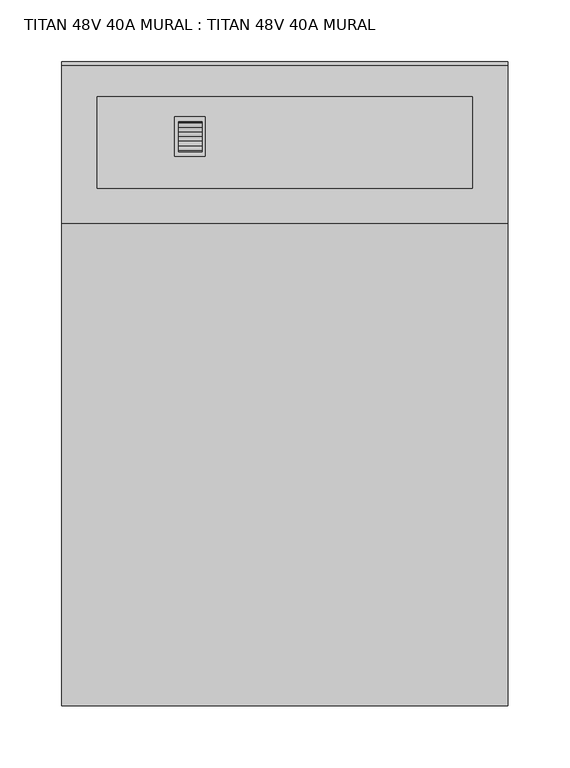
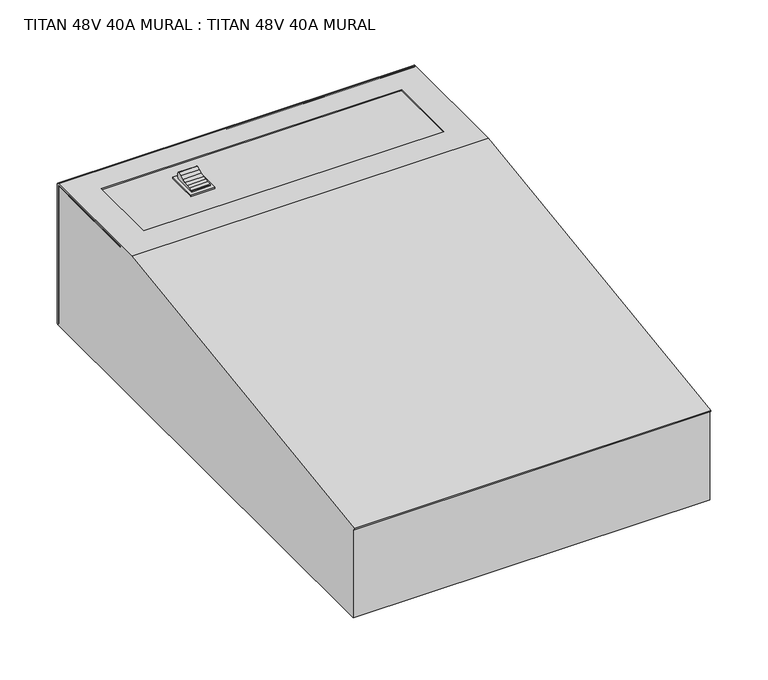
"""IFC4 building model written with IfcOpenShell, lengths in millimetres: proxy geometry, TITAN 48V 40A MURAL : TITAN 48V 40A MURAL."""

from ifc_helpers import new_model, si_unit, point, frame, frame_2d, origin, place, context, project, spatial, polyline, circle_curve, trimmed, segment, composite_curve, outline, extrude, source, transform, mapped, element, save
from ifc_brep_helpers import plane_surface, cylinder_surface, revolved_surface, advanced_brep


def titan_48v_40a_mural_titan_48v_40a_mural_561d1a2a(model_context):
    return source(origin(), model_context, "Body", "SolidModel", [
        extrude(outline(composite_curve([segment(polyline([(0.0, 0.0), (0.0, -17.9999999), (0.0, -19.5010361)]), True, "CONTINUOUS"), segment(trimmed(circle_curve(frame_2d((0.4270032, -22.6356875)), 3.163601), [point((0.0, -19.5010361))], [point((-2.2344057, -20.9253444))], True, "CARTESIAN"), True, "CONTINUOUS"), segment(trimmed(circle_curve(frame_2d((-4.6067196, -19.400787)), 2.8199554), [point((-2.2344057, -20.9253444))], [point((-4.0, -22.1547005))], False, "CARTESIAN"), True, "CONTINUOUS"), segment(polyline([(-4.0, -22.1547005), (-4.0, -17.1547005), (-2.0, -15.9999999), (-2.0, 0.0), (0.0, 0.0)]), True, "CONTINUOUS")], self_intersect=False)), frame((93.4737206, 3.2798499, 0.0), z_axis=(-0.5000000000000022, 0.8660254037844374, 0.0), x_axis=(0.0, 0.0, -1.0)), (0.0, 0.0, 1.0), 124.0),
        extrude(outline(composite_curve([segment(polyline([(17.9999999, 0.0), (17.9999999, -2.0), (2.0, -2.0), (0.8452994, -4.0), (-4.1547005, -4.0)]), True, "CONTINUOUS"), segment(trimmed(circle_curve(frame_2d((-1.4007871, -4.6067196)), 2.8199554), [point((-4.1547005, -4.0))], [point((-2.9253444, -2.2344057))], False, "CARTESIAN"), True, "CONTINUOUS"), segment(trimmed(circle_curve(frame_2d((-4.6356876, 0.4270032)), 3.163601), [point((-2.9253444, -2.2344057))], [point((-1.5010361, 0.0))], True, "CARTESIAN"), True, "CONTINUOUS"), segment(polyline([(-1.5010361, 0.0), (0.0, 0.0), (17.9999999, 0.0)]), True, "CONTINUOUS")], self_intersect=False)), frame((-109.0621778, 12.2798499, 0.0), z_axis=(0.5000000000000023, 0.8660254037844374, 0.0), x_axis=(0.8660254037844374, -0.5000000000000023, 0.0)), (0.0, 0.0, 1.0), 124.0),
        extrude(outline(polyline([(180.0, 240.363), (180.0, 150.363), (-180.0, 150.363), (-180.0, 240.363), (180.0, 240.363)])), frame((0.0, 0.0, 153.0), z_axis=(0.0, 0.0, 1.0), x_axis=(1.0, 0.0, 0.0)), (0.0, 0.0, 1.0), 1.0),
        extrude(outline(composite_curve([segment(polyline([(207.6415675, 161.3745771), (210.8384682, 163.0034793)]), True, "CONTINUOUS"), segment(trimmed(circle_curve(frame_2d((211.0816932, 162.5261234)), 0.5357491), [point((210.8384682, 163.0034793))], [point((211.5728075, 162.7402117))], False, "CARTESIAN"), True, "CONTINUOUS"), segment(trimmed(circle_curve(frame_2d((202.9092435, 158.9635603)), 9.450949), [point((211.5728075, 162.7402117))], [point((211.8835261, 156.0))], False, "CARTESIAN"), True, "CONTINUOUS"), segment(polyline([(211.8835261, 156.0), (188.0844381, 156.0), (188.0844381, 156.8713095)]), True, "CONTINUOUS"), segment(trimmed(circle_curve(frame_2d((188.5944381, 156.8713095)), 0.51), [point((188.0844381, 156.8713095))], [point((188.5816091, 157.3811481))], False, "CARTESIAN"), True, "CONTINUOUS"), segment(polyline([(188.5816091, 157.3811481), (192.536506, 157.4806644), (196.3330881, 157.9106033), (200.1037434, 158.6975121), (203.8517627, 159.8433965), (207.6415675, 161.3745771)]), True, "CONTINUOUS")], self_intersect=False)), frame((-85.9, 0.0, 0.0), z_axis=(1.0, 0.0, 0.0), x_axis=(0.0, 1.0, 0.0)), (0.0, 0.0, 1.0), 18.85),
        extrude(outline(polyline([(-88.95, 216.288), (-64.55, 216.288), (-64.55, 184.438), (-88.95, 184.438), (-88.95, 216.288)])), frame((0.0, 0.0, 154.0), z_axis=(0.0, 0.0, 1.0), x_axis=(1.0, 0.0, 0.0)), (0.0, 0.0, 1.0), 2.0),
        advanced_brep(
        [(180.0, -258.9002403, 99.2778779), (180.0, 130.4678902, 154.0), (180.0, 257.785744, 154.0), (180.0, 258.863, 152.922744), (180.0, 258.863, 6.5), (180.0, 257.863, 5.5), (180.0, 257.073, 5.5), (180.0, 257.073, 153.0), (180.0, 128.338, 153.0), (180.0, -257.073, 98.8340164), (180.0, -257.073, 4.0), (180.0, 257.940261, 4.0), (180.0, 260.363, 6.422739), (180.0, 260.363, 153.0369304), (180.0, 257.8999304, 155.5), (180.0, 130.363, 155.5), (180.0, -259.109, 100.76328), (-180.0, -258.9002403, 99.2778779), (-180.0, -259.109, 100.76328), (-180.0, 130.363, 155.5), (-180.0, 257.8999304, 155.5), (-180.0, 260.363, 153.0369304), (-180.0, 260.363, 6.422739), (-180.0, 257.940261, 4.0), (-180.0, -257.073, 4.0), (-180.0, -257.073, 98.8340164), (-180.0, 128.338, 153.0), (-180.0, 257.073, 153.0), (-180.0, 257.073, 5.5), (-180.0, 257.863, 5.5), (-180.0, 258.863, 6.5), (-180.0, 258.863, 152.922744), (-180.0, 257.785744, 154.0), (-180.0, 130.4678902, 154.0), (-151.5, 158.363, 154.0), (151.5, 158.363, 154.0), (151.5, 232.363, 154.0), (-151.5, 232.363, 154.0), (151.5, 158.363, 153.0), (-151.5, 158.363, 153.0), (-151.5, 232.363, 153.0), (151.5, 232.363, 153.0), (151.5, 158.363, 155.5), (-151.5, 158.363, 155.5), (-151.5, 232.363, 155.5), (151.5, 232.363, 155.5), (151.5, 158.363, 152.5), (151.5, 232.363, 152.5), (-151.5, 232.363, 152.5), (-151.5, 158.363, 152.5)],
        [
            (0, 1),
            (1, 2),
            (2, 3, circle_curve(frame((180.0, 257.785744, 152.922744), z_axis=(-1.0, 0.0, 0.0), x_axis=(0.0, -1.0, 0.0)), 1.077256)),
            (3, 4),
            (4, 5, circle_curve(frame((180.0, 257.863, 6.5), z_axis=(-1.0, 0.0, 0.0), x_axis=(0.0, -1.0, 0.0)), 1.0)),
            (5, 6),
            (6, 7),
            (7, 8),
            (8, 9),
            (9, 10),
            (10, 11),
            (11, 12, circle_curve(frame((180.0, 257.940261, 6.422739), z_axis=(1.0, 0.0, 0.0), x_axis=(0.0, -1.0, 0.0)), 2.422739)),
            (12, 13),
            (13, 14, circle_curve(frame((180.0, 257.8999304, 153.0369304), z_axis=(1.0, 0.0, 0.0), x_axis=(0.0, -1.0, 0.0)), 2.4630696)),
            (14, 15),
            (15, 16),
            (16, 0),
            (17, 18),
            (18, 19),
            (19, 20),
            (20, 21, circle_curve(frame((-180.0, 257.8999304, 153.0369304), z_axis=(-1.0, 0.0, 0.0), x_axis=(0.0, -1.0, 0.0)), 2.4630696)),
            (21, 22),
            (22, 23, circle_curve(frame((-180.0, 257.940261, 6.422739), z_axis=(-1.0, 0.0, 0.0), x_axis=(0.0, -1.0, 0.0)), 2.422739)),
            (23, 24),
            (24, 25),
            (25, 26),
            (26, 27),
            (27, 28),
            (28, 29),
            (29, 30, circle_curve(frame((-180.0, 257.863, 6.5), z_axis=(1.0, 0.0, 0.0), x_axis=(0.0, -1.0, 0.0)), 1.0)),
            (30, 31),
            (31, 32, circle_curve(frame((-180.0, 257.785744, 152.922744), z_axis=(1.0, 0.0, 0.0), x_axis=(0.0, -1.0, 0.0)), 1.077256)),
            (32, 33),
            (33, 17),
            (0, 17),
            (33, 1),
            (32, 2),
            (34, 35),
            (35, 36),
            (36, 37),
            (37, 34),
            (31, 3),
            (30, 4),
            (29, 5),
            (28, 6),
            (27, 7),
            (26, 8),
            (38, 39),
            (39, 40),
            (40, 41),
            (41, 38),
            (25, 9),
            (24, 10),
            (23, 11),
            (22, 12),
            (21, 13),
            (20, 14),
            (19, 15),
            (42, 43),
            (43, 44),
            (44, 45),
            (45, 42),
            (18, 16),
            (46, 47),
            (47, 48),
            (48, 49),
            (49, 46),
            (49, 39),
            (38, 46),
            (42, 35),
            (34, 43),
            (48, 40),
            (37, 44),
            (47, 41),
            (36, 45),
        ],
        [
            plane_surface(frame((180.0, 130.3986439, 153.9902681), z_axis=(1.0000000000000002, 0.0, 0.0), x_axis=(0.0, 0.9902680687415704, 0.13917310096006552))),
            plane_surface(frame((-180.0, 130.3986439, 153.9902681), z_axis=(-1.0000000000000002, 0.0, 0.0), x_axis=(0.0, -0.9902680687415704, -0.13917310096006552))),
            plane_surface(frame((180.0, -258.9002403, 99.2778779), z_axis=(0.0, 0.13917310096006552, -0.9902680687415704), x_axis=(-1.0, 0.0, 0.0))),
            plane_surface(frame((180.0, 130.4678902, 154.0), z_axis=(0.0, 0.0, -1.0), x_axis=(-1.0, 0.0, 0.0))),
            revolved_surface(polyline([(-180.0, 256.70848800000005, 152.922744), (180.0, 256.70848800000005, 152.922744)]), (-180.0, 257.785744, 152.922744), (-1.0, 0.0, 0.0)),
            plane_surface(frame((180.0, 258.863, 152.922744), z_axis=(0.0, -1.0, 0.0), x_axis=(-1.0, 0.0, 0.0))),
            revolved_surface(polyline([(-180.0, 256.863, 6.5), (180.0, 256.863, 6.5)]), (-180.0, 257.863, 6.5), (-1.0, 0.0, 0.0)),
            plane_surface(frame((180.0, 257.863, 5.5), z_axis=(0.0, 0.0, 1.0), x_axis=(-1.0, 0.0, 0.0))),
            plane_surface(frame((180.0, 257.073, 5.5), z_axis=(0.0, 1.0, 0.0), x_axis=(-1.0, 0.0, 0.0))),
            plane_surface(frame((180.0, 257.073, 153.0), z_axis=(0.0, 0.0, 1.0), x_axis=(-1.0, 0.0, 0.0))),
            plane_surface(frame((180.0, 128.338, 153.0), z_axis=(0.0, -0.1391731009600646, 0.9902680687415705), x_axis=(-1.0, 0.0, 0.0))),
            plane_surface(frame((180.0, -257.073, 98.8340164), z_axis=(0.0, -1.0, 0.0), x_axis=(-1.0, 0.0, 0.0))),
            plane_surface(frame((180.0, -257.073, 4.0), z_axis=(0.0, 0.0, -1.0), x_axis=(-1.0, 0.0, 0.0))),
            cylinder_surface(frame((-180.0, 257.940261, 6.422739), z_axis=(1.0, 0.0, 0.0), x_axis=(0.0, -1.0, 0.0)), 2.422739),
            plane_surface(frame((180.0, 260.363, 6.422739), z_axis=(0.0, 1.0, 0.0), x_axis=(-1.0, 0.0, 0.0))),
            cylinder_surface(frame((-180.0, 257.8999304, 153.0369304), z_axis=(1.0, 0.0, 0.0), x_axis=(0.0, -1.0, 0.0)), 2.4630696),
            plane_surface(frame((180.0, 257.8999304, 155.5), z_axis=(0.0, 0.0, 1.0), x_axis=(-1.0, 0.0, 0.0))),
            plane_surface(frame((180.0, 130.363, 155.5), z_axis=(0.0, -0.1391731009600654, 0.9902680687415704), x_axis=(-1.0, 0.0, 0.0))),
            plane_surface(frame((180.0, -259.109, 100.76328), z_axis=(0.0, -0.9902680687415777, -0.13917310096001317), x_axis=(-1.0, 0.0, 0.0))),
            plane_surface(frame((151.5, 158.363, 152.5), z_axis=(0.0, 0.0, 1.0), x_axis=(-1.0, 0.0, 0.0))),
            plane_surface(frame((151.5, 158.363, 152.5), z_axis=(0.0, 1.0, 0.0), x_axis=(0.0, 0.0, 1.0))),
            plane_surface(frame((-151.5, 158.363, 152.5), z_axis=(1.0, 0.0, 0.0), x_axis=(0.0, 0.0, 1.0))),
            plane_surface(frame((-151.5, 232.363, 152.5), z_axis=(0.0, -1.0, 0.0), x_axis=(0.0, 0.0, 1.0))),
            plane_surface(frame((151.5, 232.363, 152.5), z_axis=(-1.0, 0.0, 0.0), x_axis=(0.0, 0.0, 1.0))),
        ],
        [
            (0, [[1, 2, 3, 4, 5, 6, 7, 8, 9, 10, 11, 12, 13, 14, 15, 16, 17]]),
            (1, [[18, 19, 20, 21, 22, 23, 24, 25, 26, 27, 28, 29, 30, 31, 32, 33, 34]]),
            (2, [[-1, 35, -34, 36]]),
            (3, [[-2, -36, -33, 37], [38, 39, 40, 41]]),
            (4, [[-3, -37, -32, 42]]),
            (5, [[-4, -42, -31, 43]]),
            (6, [[-5, -43, -30, 44]]),
            (7, [[-6, -44, -29, 45]]),
            (8, [[-7, -45, -28, 46]]),
            (9, [[-8, -46, -27, 47], [48, 49, 50, 51]]),
            (10, [[-9, -47, -26, 52]]),
            (11, [[-10, -52, -25, 53]]),
            (12, [[-11, -53, -24, 54]]),
            (13, [[-12, -54, -23, 55]]),
            (14, [[-13, -55, -22, 56]]),
            (15, [[-14, -56, -21, 57]]),
            (16, [[-15, -57, -20, 58], [59, 60, 61, 62]]),
            (17, [[-16, -58, -19, 63]]),
            (18, [[-17, -63, -18, -35]]),
            (19, [[64, 65, 66, 67]]),
            (20, [[-67, 68, -48, 69]]),
            (20, [[70, -38, 71, -59]]),
            (21, [[-66, 72, -49, -68]]),
            (21, [[-71, -41, 73, -60]]),
            (22, [[-65, 74, -50, -72]]),
            (22, [[-73, -40, 75, -61]]),
            (23, [[-64, -69, -51, -74]]),
            (23, [[-70, -62, -75, -39]]),
        ],
    ),
    ])


if __name__ == "__main__":
    model = new_model("IFC4")
    model_context = context("Model", 3, world=origin())
    ifc_project = project(units=[si_unit("LENGTHUNIT", "METRE", prefix="MILLI")], contexts=[model_context])
    site = spatial("IfcSite", under=ifc_project)
    building = spatial("IfcBuilding", under=site)
    placement = place(None, origin())
    titan_48v_40a_mural_titan_48v_40a_mural_shape = titan_48v_40a_mural_titan_48v_40a_mural_561d1a2a(model_context)
    element("IfcBuildingElementProxy", 1, Name="TITAN 48V 40A MURAL : TITAN 48V 40A MURAL", ObjectType="TITAN 48V 40A MURAL : TITAN 48V 40A MURAL", at=placement, inside=building, context=model_context, shape_type="MappedRepresentation", body=[
        mapped(titan_48v_40a_mural_titan_48v_40a_mural_shape, transform((0.0, 0.0, 0.0), x_axis=(1.0, 0.0, 0.0), y_axis=(0.0, 1.0, 0.0), z_axis=(0.0, 0.0, 1.0))),
    ])
    save(model, "model.ifc")
